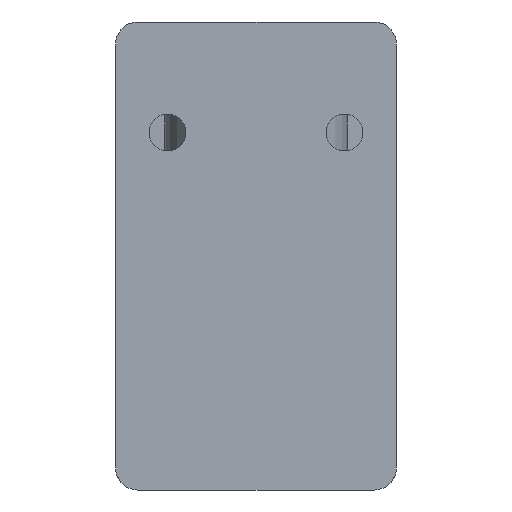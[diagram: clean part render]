
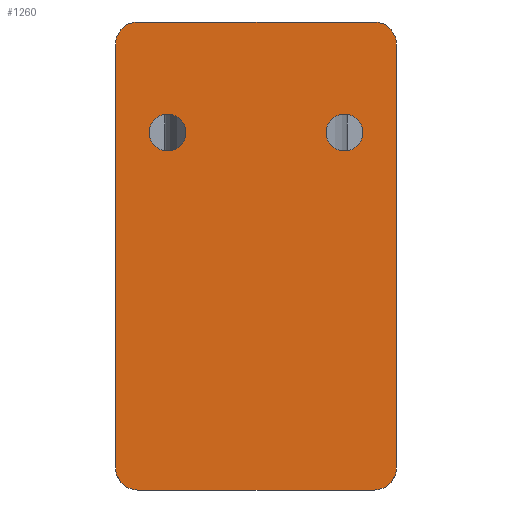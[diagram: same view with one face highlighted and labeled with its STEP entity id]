
A CAD part, left-side view. The second image highlights one B-rep face of the part: STEP entity #1260.
In plain terms, the highlighted planar face has unit normal (-1, 0, 0).
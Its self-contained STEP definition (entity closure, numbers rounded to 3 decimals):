
#1 = EDGE_CURVE ( 'NONE', #2395, #72, #103, .T. ) ;
#27 = VERTEX_POINT ( 'NONE', #2704 ) ;
#71 = CIRCLE ( 'NONE', #1950, 3. ) ;
#72 = VERTEX_POINT ( 'NONE', #1379 ) ;
#77 = CARTESIAN_POINT ( 'NONE',  ( -36., -12., 16.75 ) ) ;
#80 = DIRECTION ( 'NONE',  ( 1., 0., 0. ) ) ;
#92 = DIRECTION ( 'NONE',  ( 0., 0., -1. ) ) ;
#103 = LINE ( 'NONE', #1638, #2790 ) ;
#113 = CARTESIAN_POINT ( 'NONE',  ( -36., -19.05, -28.75 ) ) ;
#114 = EDGE_LOOP ( 'NONE', ( #1562, #991 ) ) ;
#134 = DIRECTION ( 'NONE',  ( 0., 0., 1. ) ) ;
#156 = EDGE_CURVE ( 'NONE', #3253, #724, #3049, .T. ) ;
#267 = EDGE_CURVE ( 'NONE', #370, #1811, #1383, .T. ) ;
#274 = CARTESIAN_POINT ( 'NONE',  ( -36., -16.05, -28.75 ) ) ;
#302 = EDGE_CURVE ( 'NONE', #1083, #27, #3148, .T. ) ;
#335 = AXIS2_PLACEMENT_3D ( 'NONE', #274, #1823, #2997 ) ;
#351 = DIRECTION ( 'NONE',  ( 0., 0., 1. ) ) ;
#370 = VERTEX_POINT ( 'NONE', #420 ) ;
#410 = CIRCLE ( 'NONE', #1975, 2.5 ) ;
#420 = CARTESIAN_POINT ( 'NONE',  ( -36., 12., 14.25 ) ) ;
#549 = DIRECTION ( 'NONE',  ( 0., 0., 1. ) ) ;
#550 = CIRCLE ( 'NONE', #662, 3. ) ;
#615 = CARTESIAN_POINT ( 'NONE',  ( -36., -16.05, -31.75 ) ) ;
#662 = AXIS2_PLACEMENT_3D ( 'NONE', #2172, #3215, #92 ) ;
#724 = VERTEX_POINT ( 'NONE', #615 ) ;
#729 = CARTESIAN_POINT ( 'NONE',  ( -36., 12., 19.25 ) ) ;
#795 = FACE_OUTER_BOUND ( 'NONE', #1130, .T. ) ;
#811 = ORIENTED_EDGE ( 'NONE', *, *, #302, .F. ) ;
#848 = DIRECTION ( 'NONE',  ( -1., 0., 0. ) ) ;
#884 = CARTESIAN_POINT ( 'NONE',  ( -36., 19.05, 28.75 ) ) ;
#913 = DIRECTION ( 'NONE',  ( -1., 0., 0. ) ) ;
#958 = EDGE_CURVE ( 'NONE', #1811, #370, #2484, .T. ) ;
#964 = DIRECTION ( 'NONE',  ( -1., 0., 0. ) ) ;
#991 = ORIENTED_EDGE ( 'NONE', *, *, #267, .F. ) ;
#1081 = VERTEX_POINT ( 'NONE', #1748 ) ;
#1083 = VERTEX_POINT ( 'NONE', #1265 ) ;
#1111 = DIRECTION ( 'NONE',  ( 0., 0., -1. ) ) ;
#1118 = VERTEX_POINT ( 'NONE', #3026 ) ;
#1120 = VERTEX_POINT ( 'NONE', #1313 ) ;
#1130 = EDGE_LOOP ( 'NONE', ( #2802, #1373, #2734, #2723, #1364, #3004, #811, #1195 ) ) ;
#1195 = ORIENTED_EDGE ( 'NONE', *, *, #3296, .T. ) ;
#1207 = ORIENTED_EDGE ( 'NONE', *, *, #2450, .F. ) ;
#1227 = CARTESIAN_POINT ( 'NONE',  ( -36., 19.05, 31.75 ) ) ;
#1260 = ADVANCED_FACE ( 'NONE', ( #2074, #1360, #795 ), #1326, .F. ) ;
#1265 = CARTESIAN_POINT ( 'NONE',  ( -36., 16.05, 31.75 ) ) ;
#1301 = ORIENTED_EDGE ( 'NONE', *, *, #2633, .F. ) ;
#1313 = CARTESIAN_POINT ( 'NONE',  ( -36., 19.05, -28.75 ) ) ;
#1315 = CARTESIAN_POINT ( 'NONE',  ( -36., 12., 16.75 ) ) ;
#1326 = PLANE ( 'NONE',  #1942 ) ;
#1348 = AXIS2_PLACEMENT_3D ( 'NONE', #1931, #1665, #351 ) ;
#1360 = FACE_BOUND ( 'NONE', #3108, .T. ) ;
#1364 = ORIENTED_EDGE ( 'NONE', *, *, #1, .T. ) ;
#1373 = ORIENTED_EDGE ( 'NONE', *, *, #1487, .T. ) ;
#1379 = CARTESIAN_POINT ( 'NONE',  ( -36., -19.05, 28.75 ) ) ;
#1383 = CIRCLE ( 'NONE', #1710, 2.5 ) ;
#1391 = DIRECTION ( 'NONE',  ( 0., 0., 1. ) ) ;
#1476 = CARTESIAN_POINT ( 'NONE',  ( -36., 16.05, -28.75 ) ) ;
#1487 = EDGE_CURVE ( 'NONE', #1120, #3253, #2212, .T. ) ;
#1504 = EDGE_CURVE ( 'NONE', #1120, #1927, #2232, .T. ) ;
#1562 = ORIENTED_EDGE ( 'NONE', *, *, #958, .F. ) ;
#1618 = DIRECTION ( 'NONE',  ( 0., -1., 0. ) ) ;
#1638 = CARTESIAN_POINT ( 'NONE',  ( -36., -19.05, 31.75 ) ) ;
#1665 = DIRECTION ( 'NONE',  ( -1., 0., 0. ) ) ;
#1710 = AXIS2_PLACEMENT_3D ( 'NONE', #1315, #848, #1799 ) ;
#1748 = CARTESIAN_POINT ( 'NONE',  ( -36., -12., 14.25 ) ) ;
#1778 = DIRECTION ( 'NONE',  ( 0., 0., -1. ) ) ;
#1799 = DIRECTION ( 'NONE',  ( 0., 0., 1. ) ) ;
#1811 = VERTEX_POINT ( 'NONE', #729 ) ;
#1823 = DIRECTION ( 'NONE',  ( -1., 0., 0. ) ) ;
#1838 = VECTOR ( 'NONE', #2023, 1000. ) ;
#1927 = VERTEX_POINT ( 'NONE', #884 ) ;
#1931 = CARTESIAN_POINT ( 'NONE',  ( -36., 12., 16.75 ) ) ;
#1942 = AXIS2_PLACEMENT_3D ( 'NONE', #2389, #80, #1111 ) ;
#1944 = VECTOR ( 'NONE', #1983, 1000. ) ;
#1950 = AXIS2_PLACEMENT_3D ( 'NONE', #2552, #3038, #3312 ) ;
#1959 = CARTESIAN_POINT ( 'NONE',  ( -36., 16.05, -31.75 ) ) ;
#1975 = AXIS2_PLACEMENT_3D ( 'NONE', #2220, #913, #1391 ) ;
#1977 = VECTOR ( 'NONE', #1618, 1000. ) ;
#1983 = DIRECTION ( 'NONE',  ( 0., 0., 1. ) ) ;
#2023 = DIRECTION ( 'NONE',  ( 0., -1., 0. ) ) ;
#2074 = FACE_BOUND ( 'NONE', #114, .T. ) ;
#2172 = CARTESIAN_POINT ( 'NONE',  ( -36., 16.05, 28.75 ) ) ;
#2178 = CIRCLE ( 'NONE', #2620, 2.5 ) ;
#2212 = CIRCLE ( 'NONE', #2979, 3. ) ;
#2220 = CARTESIAN_POINT ( 'NONE',  ( -36., -12., 16.75 ) ) ;
#2232 = LINE ( 'NONE', #1227, #1944 ) ;
#2389 = CARTESIAN_POINT ( 'NONE',  ( -36., 19.05, 31.75 ) ) ;
#2395 = VERTEX_POINT ( 'NONE', #113 ) ;
#2450 = EDGE_CURVE ( 'NONE', #1081, #1118, #410, .T. ) ;
#2484 = CIRCLE ( 'NONE', #1348, 2.5 ) ;
#2552 = CARTESIAN_POINT ( 'NONE',  ( -36., -16.05, 28.75 ) ) ;
#2620 = AXIS2_PLACEMENT_3D ( 'NONE', #77, #2638, #549 ) ;
#2633 = EDGE_CURVE ( 'NONE', #1118, #1081, #2178, .T. ) ;
#2638 = DIRECTION ( 'NONE',  ( -1., 0., 0. ) ) ;
#2704 = CARTESIAN_POINT ( 'NONE',  ( -36., -16.05, 31.75 ) ) ;
#2710 = CIRCLE ( 'NONE', #335, 3. ) ;
#2723 = ORIENTED_EDGE ( 'NONE', *, *, #3197, .T. ) ;
#2734 = ORIENTED_EDGE ( 'NONE', *, *, #156, .T. ) ;
#2790 = VECTOR ( 'NONE', #134, 1000. ) ;
#2802 = ORIENTED_EDGE ( 'NONE', *, *, #1504, .F. ) ;
#2825 = CARTESIAN_POINT ( 'NONE',  ( -36., 19.05, -31.75 ) ) ;
#2875 = CARTESIAN_POINT ( 'NONE',  ( -36., 19.05, 31.75 ) ) ;
#2979 = AXIS2_PLACEMENT_3D ( 'NONE', #1476, #964, #1778 ) ;
#2997 = DIRECTION ( 'NONE',  ( 0., 0., -1. ) ) ;
#3004 = ORIENTED_EDGE ( 'NONE', *, *, #3015, .T. ) ;
#3015 = EDGE_CURVE ( 'NONE', #72, #27, #71, .T. ) ;
#3026 = CARTESIAN_POINT ( 'NONE',  ( -36., -12., 19.25 ) ) ;
#3038 = DIRECTION ( 'NONE',  ( -1., 0., 0. ) ) ;
#3049 = LINE ( 'NONE', #2825, #1838 ) ;
#3108 = EDGE_LOOP ( 'NONE', ( #1301, #1207 ) ) ;
#3148 = LINE ( 'NONE', #2875, #1977 ) ;
#3197 = EDGE_CURVE ( 'NONE', #724, #2395, #2710, .T. ) ;
#3215 = DIRECTION ( 'NONE',  ( -1., 0., 0. ) ) ;
#3253 = VERTEX_POINT ( 'NONE', #1959 ) ;
#3296 = EDGE_CURVE ( 'NONE', #1083, #1927, #550, .T. ) ;
#3312 = DIRECTION ( 'NONE',  ( 0., 0., -1. ) ) ;
